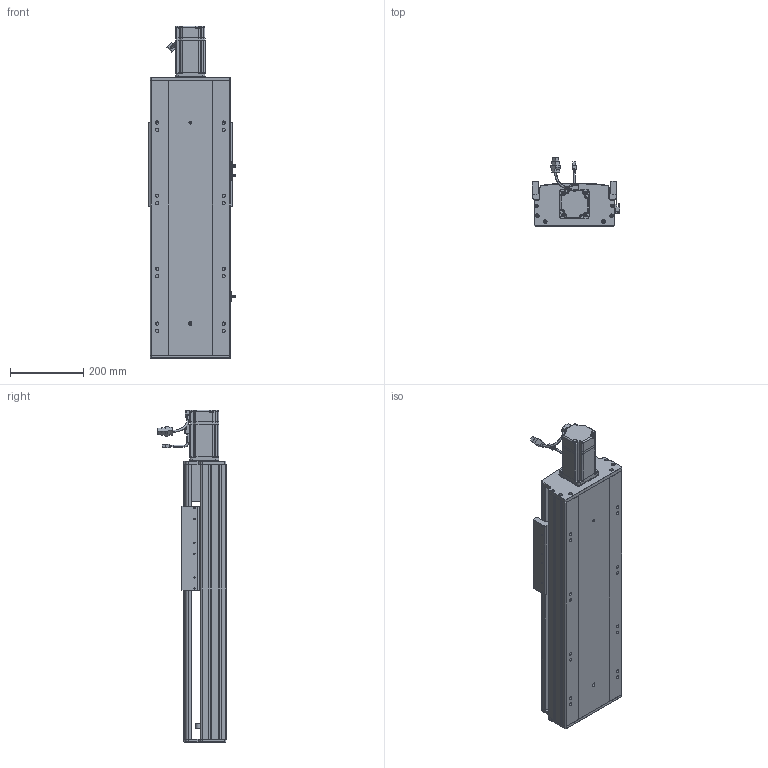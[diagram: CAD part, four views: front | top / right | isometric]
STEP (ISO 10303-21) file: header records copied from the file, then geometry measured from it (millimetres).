
FILE_DESCRIPTION (( 'STEP AP203' ), '1' );
FILE_NAME ('RY220-L2525-300-MK.SLDASM_350.step', '2022-07-04T02:57:17', ( '' ), ( '' ), 'SwSTEP 2.0', 'SolidWorks 2016', '' );
FILE_SCHEMA (( 'CONFIG_CONTROL_DESIGN' ));
Length unit declared in the file: millimetre
Products named in the file (12): RY220菁釱MK-300_350; RY220-俋离672覜茼んえ; RY220电机支撑座FK20（PCD90M6）; RY220綴裔啣; RY220-L2525-300-MK.SLDASM_350; RY220ヶ裔啣; RY220-300-奻裔啣-MK_350; 滅袉蝶18-12; RY220半封闭25-32螺母铝滑块; 滅袉蝶18-15; 怢湛750W_ECMA-CX0807ES; 覜茼ん672
Assembly tree (15 placements, depth 2):
  RY220-L2525-300-MK.SLDASM_350
    RY220菁釱MK-300_350
    RY220电机支撑座FK20（PCD90M6）
    怢湛750W_ECMA-CX0807ES
    滅袉蝶18-12  x2
    RY220ヶ裔啣
    RY220綴裔啣
    覜茼ん672  x3
    RY220半封闭25-32螺母铝滑块
    RY220-300-奻裔啣-MK_350
    RY220-俋离672覜茼んえ
    滅袉蝶18-15  x2
Bounding box: 238.7 x 187.27 x 908.3 mm (x, y, z)
Volume: 8165962.8 mm3; surface area: 2061014.1 mm2
Topology: 16 solids, 16 shells, 2084 faces, 5770 edges, 3666 vertices
Faces by surface type: cylinder 910, plane 907, cone 205, bspline 36, sphere 16, torus 10
Entity records: 68386 total; most frequent: CARTESIAN_POINT 19569, ORIENTED_EDGE 10168, DIRECTION 9503, EDGE_CURVE 5084, VERTEX_POINT 3322, AXIS2_PLACEMENT_3D 3305, LINE 2893, VECTOR 2893
